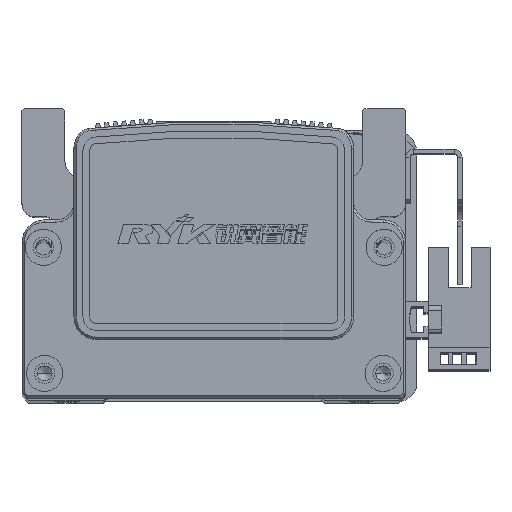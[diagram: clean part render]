
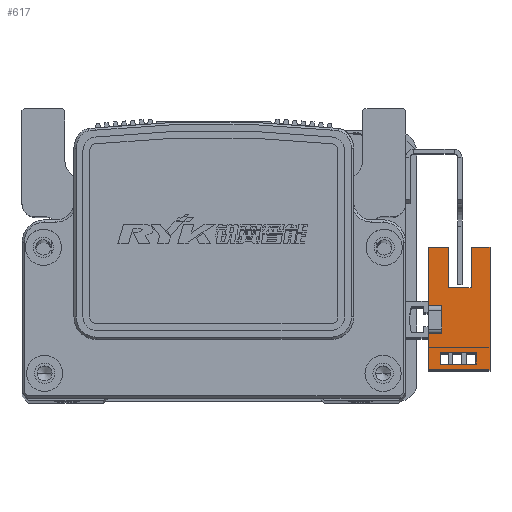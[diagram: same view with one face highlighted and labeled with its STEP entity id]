
A CAD part, top view. The second image highlights one B-rep face of the part: STEP entity #617.
In plain terms, the highlighted planar face has unit normal (0, 0, 1) as drawn and (1, 0, 0) by its records, which use the part's own axes.
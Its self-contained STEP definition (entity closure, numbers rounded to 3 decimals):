
#617 = ADVANCED_FACE ( 'NONE', ( #20114, #20107 ), #23314, .T. ) ;
#2539 = EDGE_CURVE ( 'NONE', #8073, #8168, #47782, .T. ) ;
#2587 = EDGE_CURVE ( 'NONE', #8088, #8072, #47885, .T. ) ;
#2588 = EDGE_CURVE ( 'NONE', #8172, #8190, #47894, .T. ) ;
#2602 = EDGE_CURVE ( 'NONE', #8072, #8069, #47879, .T. ) ;
#5250 = EDGE_CURVE ( 'NONE', #8019, #8071, #41612, .T. ) ;
#5267 = EDGE_CURVE ( 'NONE', #8054, #8073, #41531, .T. ) ;
#8019 = VERTEX_POINT ( 'NONE', #50445 ) ;
#8054 = VERTEX_POINT ( 'NONE', #50460 ) ;
#8069 = VERTEX_POINT ( 'NONE', #50458 ) ;
#8071 = VERTEX_POINT ( 'NONE', #50485 ) ;
#8072 = VERTEX_POINT ( 'NONE', #50514 ) ;
#8073 = VERTEX_POINT ( 'NONE', #50497 ) ;
#8088 = VERTEX_POINT ( 'NONE', #50508 ) ;
#8102 = VERTEX_POINT ( 'NONE', #50557 ) ;
#8111 = VERTEX_POINT ( 'NONE', #50528 ) ;
#8113 = VERTEX_POINT ( 'NONE', #50547 ) ;
#8137 = VERTEX_POINT ( 'NONE', #50580 ) ;
#8168 = VERTEX_POINT ( 'NONE', #50561 ) ;
#8172 = VERTEX_POINT ( 'NONE', #50575 ) ;
#8182 = VERTEX_POINT ( 'NONE', #50521 ) ;
#8190 = VERTEX_POINT ( 'NONE', #50620 ) ;
#8244 = VERTEX_POINT ( 'NONE', #50595 ) ;
#11110 = CARTESIAN_POINT ( 'NONE',  ( 3.2, 16.1, -10.7 ) ) ;
#11128 = CARTESIAN_POINT ( 'NONE',  ( 3.2, 0., 0. ) ) ;
#11150 = DIRECTION ( 'NONE',  ( 0., 1., 0. ) ) ;
#11152 = CARTESIAN_POINT ( 'NONE',  ( 3.2, 16.1, 0.3 ) ) ;
#11164 = DIRECTION ( 'NONE',  ( 0., 1., 0. ) ) ;
#11173 = DIRECTION ( 'NONE',  ( 0., -1., 0. ) ) ;
#11199 = DIRECTION ( 'NONE',  ( 0., 0., -1. ) ) ;
#11203 = DIRECTION ( 'NONE',  ( 0., -1., 0. ) ) ;
#11224 = DIRECTION ( 'NONE',  ( 0., 0., 1. ) ) ;
#11231 = DIRECTION ( 'NONE',  ( 0., 0., 1. ) ) ;
#11235 = CARTESIAN_POINT ( 'NONE',  ( 3.2, 16.1, -10.7 ) ) ;
#11238 = CARTESIAN_POINT ( 'NONE',  ( 3.2, 25.1, -6.5 ) ) ;
#11243 = CARTESIAN_POINT ( 'NONE',  ( 3.2, 7.1, -6.5 ) ) ;
#11249 = DIRECTION ( 'NONE',  ( 0., 0., 1. ) ) ;
#11250 = CARTESIAN_POINT ( 'NONE',  ( 3.2, -9.83, -10.7 ) ) ;
#11253 = CARTESIAN_POINT ( 'NONE',  ( 3.2, -7.33, -10.7 ) ) ;
#11262 = CARTESIAN_POINT ( 'NONE',  ( 3.2, 16.1, -7.7 ) ) ;
#11280 = DIRECTION ( 'NONE',  ( 0., 0., 1. ) ) ;
#11283 = DIRECTION ( 'NONE',  ( 0., 1., 0. ) ) ;
#11331 = CARTESIAN_POINT ( 'NONE',  ( 3.2, -11.1, 3. ) ) ;
#14478 = CARTESIAN_POINT ( 'NONE',  ( 3.2, 16.1, 3. ) ) ;
#14503 = CARTESIAN_POINT ( 'NONE',  ( 3.2, 16.1, -10.7 ) ) ;
#14521 = DIRECTION ( 'NONE',  ( 0., 0., 1. ) ) ;
#14541 = DIRECTION ( 'NONE',  ( 0., 1., 0. ) ) ;
#15789 = DIRECTION ( 'NONE',  ( 0., 1., 0. ) ) ;
#15800 = DIRECTION ( 'NONE',  ( 0., 0., 1. ) ) ;
#15802 = CARTESIAN_POINT ( 'NONE',  ( 3.2, 25.1, -1.5 ) ) ;
#15818 = CARTESIAN_POINT ( 'NONE',  ( 3.2, 3.1, 3. ) ) ;
#15845 = CARTESIAN_POINT ( 'NONE',  ( 3.2, 16.1, 3. ) ) ;
#15849 = DIRECTION ( 'NONE',  ( 0., 1., 0. ) ) ;
#17783 = EDGE_LOOP ( 'NONE', ( #29847, #29747, #29788, #29771 ) ) ;
#17797 = EDGE_LOOP ( 'NONE', ( #29769, #29870, #29738, #29780, #29792, #29799, #29757, #29743, #29784, #29798, #29796, #29835 ) ) ;
#20107 = FACE_BOUND ( 'NONE', #17783, .T. ) ;
#20114 = FACE_OUTER_BOUND ( 'NONE', #17797, .T. ) ;
#22715 = VECTOR ( 'NONE', #11203, 1000. ) ;
#22759 = LINE ( 'NONE', #11152, #22782 ) ;
#22782 = VECTOR ( 'NONE', #11173, 1000. ) ;
#22795 = LINE ( 'NONE', #11238, #22715 ) ;
#22808 = LINE ( 'NONE', #11128, #22810 ) ;
#22810 = VECTOR ( 'NONE', #11150, 1000. ) ;
#22819 = VECTOR ( 'NONE', #11164, 1000. ) ;
#22825 = LINE ( 'NONE', #11110, #22819 ) ;
#22846 = LINE ( 'NONE', #11250, #22894 ) ;
#22863 = LINE ( 'NONE', #11331, #22876 ) ;
#22867 = VECTOR ( 'NONE', #11249, 1000. ) ;
#22873 = LINE ( 'NONE', #11262, #22916 ) ;
#22876 = VECTOR ( 'NONE', #11280, 1000. ) ;
#22894 = VECTOR ( 'NONE', #11199, 1000. ) ;
#22899 = VECTOR ( 'NONE', #11231, 1000. ) ;
#22903 = LINE ( 'NONE', #11243, #22934 ) ;
#22908 = LINE ( 'NONE', #11253, #22899 ) ;
#22916 = VECTOR ( 'NONE', #11283, 1000. ) ;
#22927 = LINE ( 'NONE', #11235, #22867 ) ;
#22934 = VECTOR ( 'NONE', #11224, 1000. ) ;
#23287 = CARTESIAN_POINT ( 'NONE',  ( 3.2, 16.1, -10.7 ) ) ;
#23314 = PLANE ( 'NONE',  #54529 ) ;
#23315 = DIRECTION ( 'NONE',  ( 0., 1., 0. ) ) ;
#23318 = DIRECTION ( 'NONE',  ( 1., 0., 0. ) ) ;
#29738 = ORIENTED_EDGE ( 'NONE', *, *, #2588, .T. ) ;
#29743 = ORIENTED_EDGE ( 'NONE', *, *, #2539, .F. ) ;
#29747 = ORIENTED_EDGE ( 'NONE', *, *, #43433, .F. ) ;
#29757 = ORIENTED_EDGE ( 'NONE', *, *, #43419, .F. ) ;
#29769 = ORIENTED_EDGE ( 'NONE', *, *, #43428, .T. ) ;
#29771 = ORIENTED_EDGE ( 'NONE', *, *, #43435, .F. ) ;
#29780 = ORIENTED_EDGE ( 'NONE', *, *, #43434, .T. ) ;
#29784 = ORIENTED_EDGE ( 'NONE', *, *, #5267, .F. ) ;
#29788 = ORIENTED_EDGE ( 'NONE', *, *, #43454, .F. ) ;
#29792 = ORIENTED_EDGE ( 'NONE', *, *, #2602, .F. ) ;
#29796 = ORIENTED_EDGE ( 'NONE', *, *, #43423, .T. ) ;
#29798 = ORIENTED_EDGE ( 'NONE', *, *, #43455, .F. ) ;
#29799 = ORIENTED_EDGE ( 'NONE', *, *, #2587, .F. ) ;
#29835 = ORIENTED_EDGE ( 'NONE', *, *, #5250, .T. ) ;
#29847 = ORIENTED_EDGE ( 'NONE', *, *, #43412, .F. ) ;
#29870 = ORIENTED_EDGE ( 'NONE', *, *, #43432, .T. ) ;
#41531 = LINE ( 'NONE', #14478, #41716 ) ;
#41612 = LINE ( 'NONE', #14503, #41624 ) ;
#41624 = VECTOR ( 'NONE', #14521, 1000. ) ;
#41716 = VECTOR ( 'NONE', #14541, 1000. ) ;
#43412 = EDGE_CURVE ( 'NONE', #8113, #8244, #22759, .T. ) ;
#43419 = EDGE_CURVE ( 'NONE', #8168, #8088, #22808, .T. ) ;
#43423 = EDGE_CURVE ( 'NONE', #8102, #8019, #22825, .T. ) ;
#43428 = EDGE_CURVE ( 'NONE', #8071, #8111, #22795, .T. ) ;
#43432 = EDGE_CURVE ( 'NONE', #8111, #8172, #22903, .T. ) ;
#43433 = EDGE_CURVE ( 'NONE', #8182, #8113, #22908, .T. ) ;
#43434 = EDGE_CURVE ( 'NONE', #8190, #8069, #22927, .T. ) ;
#43435 = EDGE_CURVE ( 'NONE', #8244, #8137, #22846, .T. ) ;
#43454 = EDGE_CURVE ( 'NONE', #8137, #8182, #22873, .T. ) ;
#43455 = EDGE_CURVE ( 'NONE', #8102, #8054, #22863, .T. ) ;
#46995 = DIRECTION ( 'NONE',  ( 0., 0., -1. ) ) ;
#47006 = CARTESIAN_POINT ( 'NONE',  ( 3.2, -3.1, 3. ) ) ;
#47782 = LINE ( 'NONE', #47006, #47783 ) ;
#47783 = VECTOR ( 'NONE', #46995, 1000. ) ;
#47879 = LINE ( 'NONE', #15845, #47880 ) ;
#47880 = VECTOR ( 'NONE', #15849, 1000. ) ;
#47881 = VECTOR ( 'NONE', #15800, 1000. ) ;
#47885 = LINE ( 'NONE', #15818, #47881 ) ;
#47894 = LINE ( 'NONE', #15802, #47898 ) ;
#47898 = VECTOR ( 'NONE', #15789, 1000. ) ;
#50445 = CARTESIAN_POINT ( 'NONE',  ( 3.2, 16.1, -10.7 ) ) ;
#50458 = CARTESIAN_POINT ( 'NONE',  ( 3.2, 16.1, 3. ) ) ;
#50460 = CARTESIAN_POINT ( 'NONE',  ( 3.2, -11.1, 3. ) ) ;
#50485 = CARTESIAN_POINT ( 'NONE',  ( 3.2, 16.1, -6.5 ) ) ;
#50497 = CARTESIAN_POINT ( 'NONE',  ( 3.2, -3.1, 3. ) ) ;
#50508 = CARTESIAN_POINT ( 'NONE',  ( 3.2, 3.1, 0. ) ) ;
#50514 = CARTESIAN_POINT ( 'NONE',  ( 3.2, 3.1, 3. ) ) ;
#50521 = CARTESIAN_POINT ( 'NONE',  ( 3.2, -7.33, -7.7 ) ) ;
#50528 = CARTESIAN_POINT ( 'NONE',  ( 3.2, 7.1, -6.5 ) ) ;
#50547 = CARTESIAN_POINT ( 'NONE',  ( 3.2, -7.33, 0.3 ) ) ;
#50557 = CARTESIAN_POINT ( 'NONE',  ( 3.2, -11.1, -10.7 ) ) ;
#50561 = CARTESIAN_POINT ( 'NONE',  ( 3.2, -3.1, 0. ) ) ;
#50575 = CARTESIAN_POINT ( 'NONE',  ( 3.2, 7.1, -1.5 ) ) ;
#50580 = CARTESIAN_POINT ( 'NONE',  ( 3.2, -9.83, -7.7 ) ) ;
#50595 = CARTESIAN_POINT ( 'NONE',  ( 3.2, -9.83, 0.3 ) ) ;
#50620 = CARTESIAN_POINT ( 'NONE',  ( 3.2, 16.1, -1.5 ) ) ;
#54529 = AXIS2_PLACEMENT_3D ( 'NONE', #23287, #23318, #23315 ) ;
